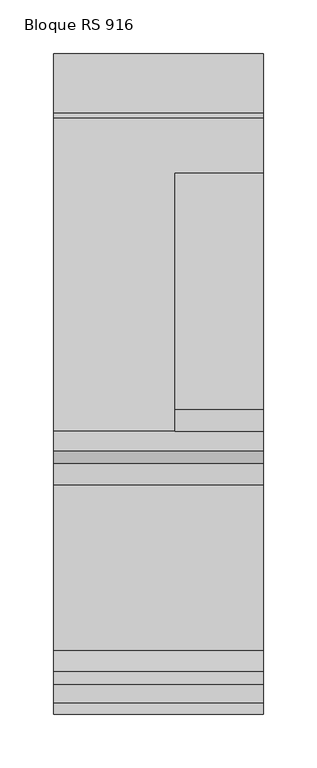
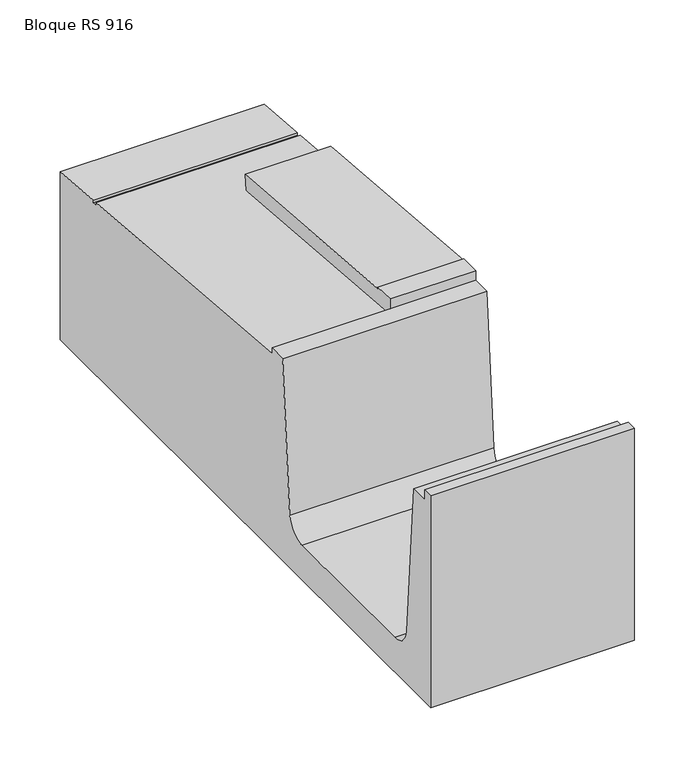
"""IFC4 building model written with IfcOpenShell, lengths in millimetres: proxy geometry, ROSA GRES_RS 916 : Bloque RS 916."""

from ifc_helpers import new_model, si_unit, frame, origin, place, context, project, spatial, polyline, circle_curve, source, transform, mapped, element, save
from ifc_brep_helpers import plane_surface, revolved_surface, advanced_brep


def bloque_rs_916_4c591605(model_context):
    return source(origin(), model_context, "Body", "AdvancedBrep", [
        advanced_brep(
        [(0.0, -12.84, 171.9333029), (0.0, -12.84, 1.7539108), (0.0, -626.84, 1.7539108), (0.0, -626.84, 216.3460936), (0.0, -616.84, 216.3460936), (0.0, -616.84, 206.3460936), (0.0, -598.84, 206.3460936), (0.0, -587.1277538, 55.2086635), (0.0, -567.1875379, 36.7539108), (0.0, -413.4924621, 36.7539108), (0.0, -393.5522462, 55.2086635), (0.0, -381.84, 206.3460936), (0.0, -363.84, 206.3460936), (0.0, -363.84, 200.5030704), (0.0, -72.84, 176.8170239), (0.0, -72.84, 173.8170239), (0.0, -67.84, 173.8170239), (0.0, -67.84, 176.4100471), (195.0, -12.84, 171.9333029), (195.0, -67.84, 176.4100471), (195.0, -67.84, 173.8170239), (195.0, -72.84, 173.8170239), (195.0, -72.84, 176.8170239), (195.0, -125.1210611, 181.0724591), (195.0, -123.84, 196.8112099), (195.0, -343.84, 214.7181867), (195.0, -343.84, 216.3460936), (195.0, -363.84, 216.3460936), (195.0, -363.84, 206.3460936), (195.0, -381.84, 206.3460936), (195.0, -393.5522462, 55.2086635), (195.0, -413.4924621, 36.7539108), (195.0, -567.1875379, 36.7539108), (195.0, -587.1277538, 55.2086635), (195.0, -598.84, 206.3460936), (195.0, -616.84, 206.3460936), (195.0, -616.84, 216.3460936), (195.0, -626.84, 216.3460936), (195.0, -626.84, 1.7539108), (195.0, -12.84, 1.7539108), (113.0, -363.84, 200.5030704), (113.0, -125.1210611, 181.0724591), (113.0, -363.84, 206.3460936), (113.0, -123.84, 196.8112099), (113.0, -363.84, 216.3460936), (113.0, -343.84, 216.3460936), (113.0, -343.84, 214.7181867)],
        [
            (0, 1),
            (1, 2),
            (2, 3),
            (3, 4),
            (4, 5),
            (5, 6),
            (6, 7),
            (7, 8, circle_curve(frame((0.0, -567.1875379, 56.7539108), z_axis=(1.0, 0.0, 0.0), x_axis=(0.0, -1.0, 0.0)), 20.0)),
            (8, 9),
            (9, 10, circle_curve(frame((0.0, -413.4924621, 56.7539108), z_axis=(1.0, 0.0, 0.0), x_axis=(0.0, -1.0, 0.0)), 20.0)),
            (10, 11),
            (11, 12),
            (12, 13),
            (13, 14),
            (14, 15),
            (15, 16),
            (16, 17),
            (17, 0),
            (18, 19),
            (19, 20),
            (20, 21),
            (21, 22),
            (22, 23),
            (23, 24),
            (24, 25),
            (25, 26),
            (26, 27),
            (27, 28),
            (28, 29),
            (29, 30),
            (30, 31, circle_curve(frame((195.0, -413.4924621, 56.7539108), z_axis=(-1.0, 0.0, 0.0), x_axis=(0.0, -1.0, 0.0)), 20.0)),
            (31, 32),
            (32, 33, circle_curve(frame((195.0, -567.1875379, 56.7539108), z_axis=(-1.0, 0.0, 0.0), x_axis=(0.0, -1.0, 0.0)), 20.0)),
            (33, 34),
            (34, 35),
            (35, 36),
            (36, 37),
            (37, 38),
            (38, 39),
            (39, 18),
            (17, 19),
            (18, 0),
            (16, 20),
            (15, 21),
            (14, 22),
            (13, 40),
            (40, 41),
            (41, 23),
            (12, 42),
            (42, 40),
            (11, 29),
            (28, 42),
            (10, 30),
            (9, 31),
            (8, 32),
            (7, 33),
            (6, 34),
            (5, 35),
            (4, 36),
            (3, 37),
            (2, 38),
            (1, 39),
            (43, 41),
            (42, 44),
            (44, 45),
            (45, 46),
            (46, 43),
            (46, 25),
            (24, 43),
            (45, 26),
            (44, 27),
        ],
        [
            plane_surface(frame((0.0, 0.0, 0.0), z_axis=(-1.0, 0.0, 0.0), x_axis=(0.0, 0.0, 1.0))),
            plane_surface(frame((195.0, 0.0, 0.0), z_axis=(1.0, 0.0, 0.0), x_axis=(0.0, 0.0, 1.0))),
            plane_surface(frame((0.0, -12.84, 171.9333029), z_axis=(0.0, 0.0811270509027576, 0.9967037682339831), x_axis=(1.0, 0.0, 0.0))),
            plane_surface(frame((0.0, -67.84, 176.4100471), z_axis=(0.0, -1.0, 0.0), x_axis=(1.0, 0.0, 0.0))),
            plane_surface(frame((0.0, -67.84, 173.8170239), z_axis=(0.0, 0.0, 1.0), x_axis=(1.0, 0.0, 0.0))),
            plane_surface(frame((0.0, -72.84, 173.8170239), z_axis=(0.0, 1.0, 0.0), x_axis=(1.0, 0.0, 0.0))),
            plane_surface(frame((0.0, -72.84, 176.8170239), z_axis=(0.0, 0.08112705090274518, 0.9967037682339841), x_axis=(1.0, 0.0, 0.0))),
            plane_surface(frame((0.0, -363.84, 200.5030704), z_axis=(0.0, 1.0, 0.0), x_axis=(1.0, 0.0, 0.0))),
            plane_surface(frame((0.0, -363.84, 206.3460936), z_axis=(0.0, 0.0, 1.0), x_axis=(1.0, 0.0, 0.0))),
            plane_surface(frame((0.0, -381.84, 206.3460936), z_axis=(0.0, -0.9970107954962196, 0.07726236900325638), x_axis=(1.0, 0.0, 0.0))),
            revolved_surface(polyline([(195.0, -433.4924621, 56.7539108), (0.0, -433.4924621, 56.7539108)]), (0.0, -413.4924621, 56.7539108), (1.0, 0.0, 0.0)),
            plane_surface(frame((0.0, -413.4924621, 36.7539108), z_axis=(0.0, 0.0, 1.0), x_axis=(1.0, 0.0, 0.0))),
            revolved_surface(polyline([(195.0, -587.1875379, 56.7539108), (0.0, -587.1875379, 56.7539108)]), (0.0, -567.1875379, 56.7539108), (1.0, 0.0, 0.0)),
            plane_surface(frame((0.0, -587.1277538, 55.2086635), z_axis=(0.0, 0.99701079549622, 0.07726236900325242), x_axis=(1.0, 0.0, 0.0))),
            plane_surface(frame((0.0, -598.84, 206.3460936), z_axis=(0.0, 0.0, 1.0), x_axis=(1.0, 0.0, 0.0))),
            plane_surface(frame((0.0, -616.84, 206.3460936), z_axis=(0.0, 1.0, 0.0), x_axis=(1.0, 0.0, 0.0))),
            plane_surface(frame((0.0, -616.84, 216.3460936), z_axis=(0.0, 0.0, 1.0), x_axis=(1.0, 0.0, 0.0))),
            plane_surface(frame((0.0, -626.84, 216.3460936), z_axis=(0.0, -1.0, 0.0), x_axis=(1.0, 0.0, 0.0))),
            plane_surface(frame((0.0, -626.84, 1.7539108), z_axis=(0.0, 0.0, -1.0), x_axis=(1.0, 0.0, 0.0))),
            plane_surface(frame((0.0, -12.84, 1.7539108), z_axis=(0.0, 1.0, 0.0), x_axis=(1.0, 0.0, 0.0))),
            plane_surface(frame((113.0, 0.0, 0.0), z_axis=(-1.0, 0.0, 0.0), x_axis=(0.0, 0.0, 1.0))),
            plane_surface(frame((113.0, -123.84, 196.8112099), z_axis=(0.0, 0.08112705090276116, 0.9967037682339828), x_axis=(1.0, 0.0, 0.0))),
            plane_surface(frame((113.0, -343.84, 214.7181867), z_axis=(0.0, 1.0, 0.0), x_axis=(1.0, 0.0, 0.0))),
            plane_surface(frame((113.0, -343.84, 216.3460936), z_axis=(0.0, 0.0, 1.0), x_axis=(1.0, 0.0, 0.0))),
            plane_surface(frame((113.0, -363.84, 216.3460936), z_axis=(0.0, -1.0, 0.0), x_axis=(1.0, 0.0, 0.0))),
            plane_surface(frame((113.0, -125.1210611, 181.0724591), z_axis=(0.0, 0.9967037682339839, -0.08112705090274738), x_axis=(1.0, 0.0, 0.0))),
        ],
        [
            (0, [[1, 2, 3, 4, 5, 6, 7, 8, 9, 10, 11, 12, 13, 14, 15, 16, 17, 18]]),
            (1, [[19, 20, 21, 22, 23, 24, 25, 26, 27, 28, 29, 30, 31, 32, 33, 34, 35, 36, 37, 38, 39, 40]]),
            (2, [[41, -19, 42, -18]]),
            (3, [[43, -20, -41, -17]]),
            (4, [[44, -21, -43, -16]]),
            (5, [[45, -22, -44, -15]]),
            (6, [[46, 47, 48, -23, -45, -14]]),
            (7, [[49, 50, -46, -13]]),
            (8, [[51, -29, 52, -49, -12]]),
            (9, [[53, -30, -51, -11]]),
            (10, [[54, -31, -53, -10]]),
            (11, [[55, -32, -54, -9]]),
            (12, [[56, -33, -55, -8]]),
            (13, [[57, -34, -56, -7]]),
            (14, [[58, -35, -57, -6]]),
            (15, [[59, -36, -58, -5]]),
            (16, [[60, -37, -59, -4]]),
            (17, [[61, -38, -60, -3]]),
            (18, [[62, -39, -61, -2]]),
            (19, [[-42, -40, -62, -1]]),
            (20, [[63, -47, -50, 64, 65, 66, 67]]),
            (21, [[68, -25, 69, -67]]),
            (22, [[70, -26, -68, -66]]),
            (23, [[71, -27, -70, -65]]),
            (24, [[-64, -52, -28, -71]]),
            (25, [[-69, -24, -48, -63]]),
        ],
    ),
    ])


if __name__ == "__main__":
    model = new_model("IFC4")
    model_context = context("Model", 3, world=origin())
    ifc_project = project(units=[si_unit("LENGTHUNIT", "METRE", prefix="MILLI")], contexts=[model_context])
    site = spatial("IfcSite", under=ifc_project)
    building = spatial("IfcBuilding", under=site)
    placement = place(None, origin())
    bloque_rs_916_shape = bloque_rs_916_4c591605(model_context)
    element("IfcBuildingElementProxy", 1, Name="ROSA GRES_RS 916 : Bloque RS 916", ObjectType="ROSA GRES_RS 916 : Bloque RS 916", at=placement, inside=building, context=model_context, shape_type="MappedRepresentation", body=[
        mapped(bloque_rs_916_shape, transform((0.0, 0.0, 0.0), x_axis=(1.0, 0.0, 0.0), y_axis=(0.0, 1.0, 0.0), z_axis=(0.0, 0.0, 1.0))),
    ])
    save(model, "model.ifc")
